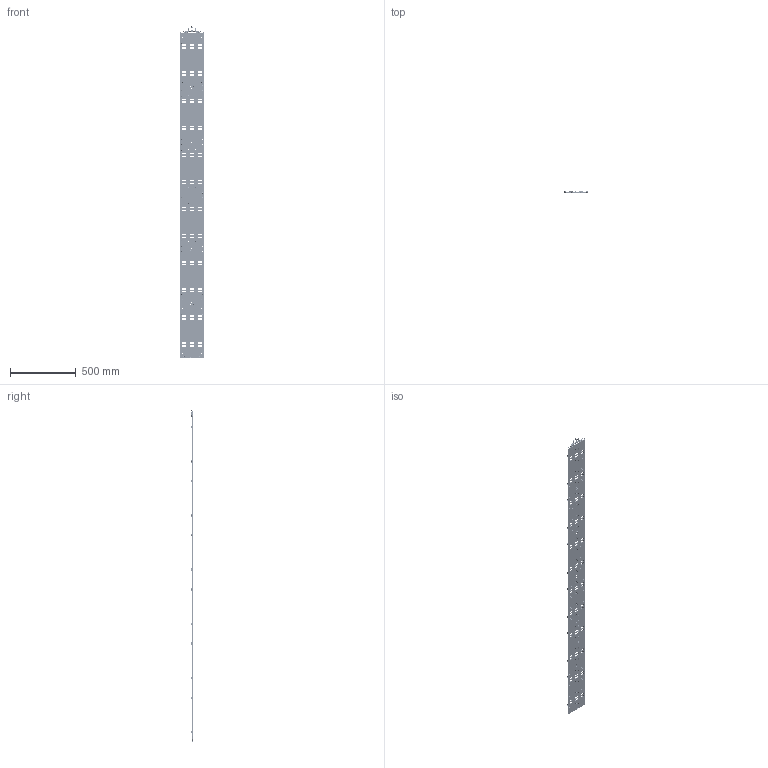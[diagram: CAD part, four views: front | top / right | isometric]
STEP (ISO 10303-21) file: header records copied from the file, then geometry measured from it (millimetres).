
FILE_DESCRIPTION(/* description */ (''),/* implementation_level */ '2;1');
FILE_NAME(/* name */ 'TRAY_221118.stp',/* time_stamp */ '2023-10-20T16:09:03+02:00',/* author */ (''),/* organization */ (''),/* preprocessor_version */ 'ST-DEVELOPER v19.4',/* originating_system */ 'SIEMENS PLM Software NX2306.5001',/* authorisation */ '');
FILE_SCHEMA (('AP203_CONFIGURATION_CONTROLLED_3D_DESIGN_OF_MECHANICAL_PARTS_AND_ASSEMBLIES_MIM_LF { 1 0 10303 403 2 1 2}'));
Products named in the file (1): TRAY_221118_objects
Bounding box: 186.99 x 18 x 2534.64 mm (x, y, z)
Volume: 1704660 mm3; surface area: 1596343.6 mm2
Topology: 295 solids, 295 shells, 11942 faces, 31870 edges, 21326 vertices
Faces by surface type: cylinder 5109, plane 4947, cone 1693, torus 105, sphere 72, bspline 12, extrusion 4
Full cylindrical faces by diameter (mm): 1.9 x24, 2.05 x551, 2.25 x10, 2.5 x547, 2.7 x312, 2.8 x96, 2.968 x48, 3 x40, 3.175 x12, 3.2 x36, 3.5 x18, 3.55 x4, 4 x18, 4.775 x12, 5 x73, 5.08 x3, 5.334 x3, 5.85 x4, 6 x804, 6.35 x3, 7.05 x2, 7.938 x3, 8 x12
Entity records: 356834 total; most frequent: DIRECTION 63258, CARTESIAN_POINT 62231, ORIENTED_EDGE 53286, EDGE_CURVE 26643, AXIS2_PLACEMENT_3D 25173, EDGE_LOOP 20068, VERTEX_POINT 19810, CIRCLE 13173
